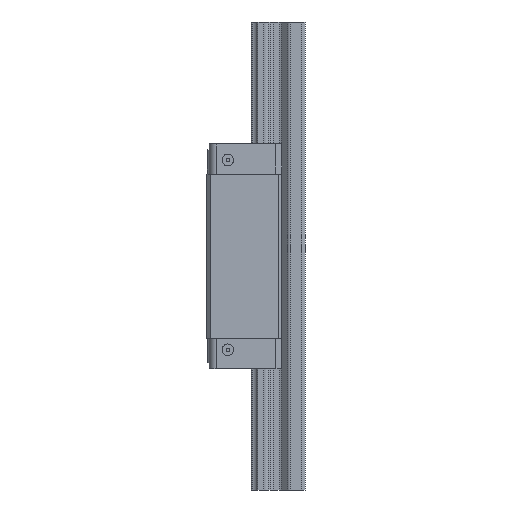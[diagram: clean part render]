
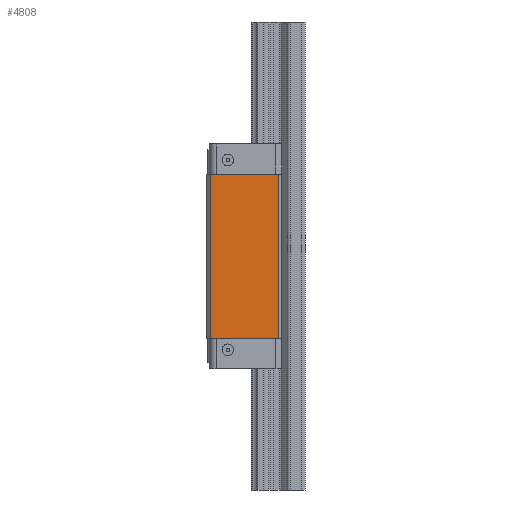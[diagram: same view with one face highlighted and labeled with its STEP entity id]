
A CAD part, left-side view. The second image highlights one B-rep face of the part: STEP entity #4808.
In plain terms, the highlighted planar face has unit normal (-1, 0, 0).
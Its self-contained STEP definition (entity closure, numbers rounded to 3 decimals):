
#2634=DIRECTION('',(0.,1.,0.));
#2635=VECTOR('',#2634,29.2);
#2636=CARTESIAN_POINT('',(-30.,-11.7,0.));
#2637=LINE('',#2636,#2635);
#2667=DIRECTION('',(0.,0.,-1.));
#2668=VECTOR('',#2667,70.1);
#2669=CARTESIAN_POINT('',(-30.,-11.7,0.));
#2670=LINE('',#2669,#2668);
#2671=DIRECTION('',(0.,1.,0.));
#2672=VECTOR('',#2671,29.2);
#2673=CARTESIAN_POINT('',(-30.,-11.7,-70.1));
#2674=LINE('',#2673,#2672);
#2675=DIRECTION('',(0.,0.,-1.));
#2676=VECTOR('',#2675,70.1);
#2677=CARTESIAN_POINT('',(-30.,17.5,0.));
#2678=LINE('',#2677,#2676);
#3583=CARTESIAN_POINT('',(-30.,17.5,0.));
#3584=CARTESIAN_POINT('',(-30.,17.5,-70.1));
#3585=VERTEX_POINT('',#3583);
#3586=VERTEX_POINT('',#3584);
#3587=CARTESIAN_POINT('',(-30.,-11.7,0.));
#3588=CARTESIAN_POINT('',(-30.,-11.7,-70.1));
#3589=VERTEX_POINT('',#3587);
#3590=VERTEX_POINT('',#3588);
#4796=CARTESIAN_POINT('',(-30.,-11.7,0.));
#4797=DIRECTION('',(-1.,0.,0.));
#4798=DIRECTION('',(0.,1.,0.));
#4799=AXIS2_PLACEMENT_3D('',#4796,#4797,#4798);
#4800=PLANE('',#4799);
#4801=ORIENTED_EDGE('',*,*,#4790,.T.);
#4802=ORIENTED_EDGE('',*,*,#4492,.T.);
#4804=ORIENTED_EDGE('',*,*,#4803,.F.);
#4805=ORIENTED_EDGE('',*,*,#4770,.F.);
#4806=EDGE_LOOP('',(#4801,#4802,#4804,#4805));
#4807=FACE_OUTER_BOUND('',#4806,.F.);
#4808=ADVANCED_FACE('',(#4807),#4800,.T.);
#4492=EDGE_CURVE('',#3590,#3586,#2674,.T.);
#4770=EDGE_CURVE('',#3589,#3585,#2637,.T.);
#4790=EDGE_CURVE('',#3589,#3590,#2670,.T.);
#4803=EDGE_CURVE('',#3585,#3586,#2678,.T.);
